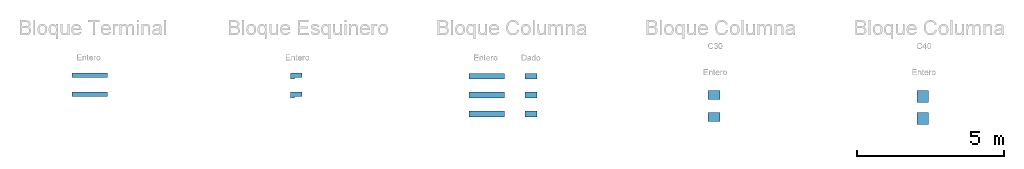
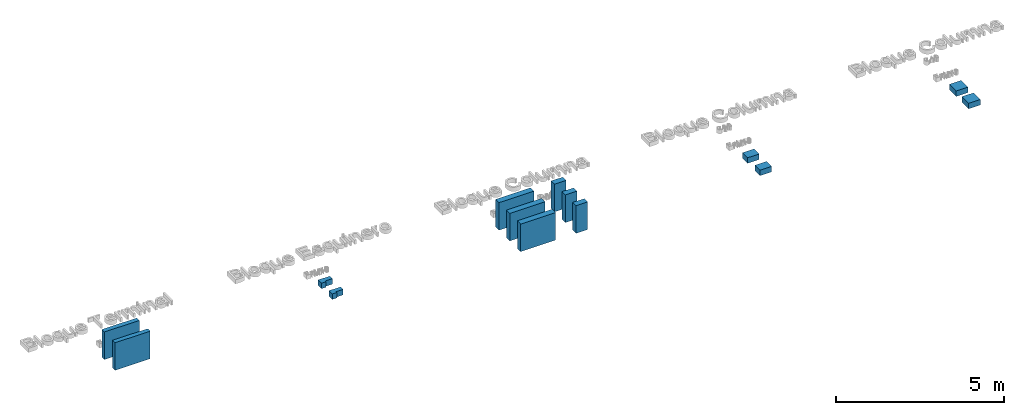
# One storey, part 1 of 8: 14 walls.
"""IFC2X3 building model written with IfcOpenShell, lengths in metres."""

import ifcopenshell
import ifcopenshell.guid

model = None  # the IFC model being written
_history = None  # IfcOwnerHistory: only IFC2X3 demands one
_inside = {}  # id of a spatial element -> (the spatial element, [elements in it])
_under = {}  # id of a project, library or spatial element -> (it, [spatial elements below it])
_declared = {}  # id of a project -> (the project, [libraries it declares])
_typed = {}  # id of a type object -> (the type object, [elements of that type])
_made_of = {}  # id of a material, layer set ... -> (it, [elements and type objects made of it])


def new_model(schema):
    """Start an empty IFC model of exactly this schema.

    Asked for "IFC4X3", IfcOpenShell would pick the latest addendum, in which some entities
    have other attributes; the version numbers below select the first issue.
    IFC2X3 requires an IfcOwnerHistory on every rooted entity: one is made here for all.
    """
    global model, _history
    if schema == "IFC4X3":
        model = ifcopenshell.file(schema_version=(4, 3, 0, 0))
    else:
        model = ifcopenshell.file(schema=schema)
    _inside.clear()
    _under.clear()
    _declared.clear()
    _typed.clear()
    _made_of.clear()
    _history = None
    if model.schema == "IFC2X3":
        org = make("IfcOrganization", Name="unknown")
        user = make(
            "IfcPersonAndOrganization",
            ThePerson=make("IfcPerson", FamilyName="unknown"),
            TheOrganization=org,
        )
        app = make(
            "IfcApplication",
            ApplicationDeveloper=org,
            Version="unknown",
            ApplicationFullName="unknown",
            ApplicationIdentifier="unknown",
        )
        _history = make(
            "IfcOwnerHistory",
            OwningUser=user,
            OwningApplication=app,
            ChangeAction="ADDED",
            CreationDate=0,
        )
    return model


def make(cls, **values):
    """One entity of the class cls with the attributes given. An attribute that is None is left unset."""
    return model.create_entity(
        cls, **{name: value for name, value in values.items() if value is not None}
    )


def entity(cls, *values):
    """Any entity or typed value of the class cls, its attributes in the order of the schema. None: left unset."""
    e = model.create_entity(cls)
    for i, value in enumerate(values):
        if value is not None:
            e[i] = value
    return e


def rooted(cls, **values):
    """An entity with a GlobalId (a new one), such as an element, a storey or a relation."""
    return make(cls, GlobalId=ifcopenshell.guid.new(), OwnerHistory=_history, **values)


def si_unit(unit_type, name, prefix=None):
    """IfcSIUnit, for example si_unit("LENGTHUNIT", "METRE", prefix="MILLI")."""
    return make("IfcSIUnit", UnitType=unit_type, Prefix=prefix, Name=name)


def converted_unit(unit_type, name, factor, base, dimensions=None, offset=None):
    """IfcConversionBasedUnit, such as the inch: factor (a typed value) times the base unit."""
    return make(
        "IfcConversionBasedUnit"
        if offset is None
        else "IfcConversionBasedUnitWithOffset",
        ConversionOffset=offset,
        Dimensions=None
        if dimensions is None
        else entity("IfcDimensionalExponents", *dimensions),
        UnitType=unit_type,
        Name=name,
        ConversionFactor=make(
            "IfcMeasureWithUnit", ValueComponent=factor, UnitComponent=base
        ),
    )


def derived_unit(unit_type, elements):
    """IfcDerivedUnit: a product of units, each with its exponent."""
    return make(
        "IfcDerivedUnit",
        Elements=[
            make("IfcDerivedUnitElement", Unit=unit, Exponent=power)
            for unit, power in elements
        ],
        UnitType=unit_type,
    )


def assignment(units):
    """IfcUnitAssignment: the units of a project."""
    return None if units is None else make("IfcUnitAssignment", Units=units)


def point(xyz):
    """IfcCartesianPoint."""
    return None if xyz is None else make("IfcCartesianPoint", Coordinates=xyz)


def direction(xyz):
    """IfcDirection."""
    return None if xyz is None else make("IfcDirection", DirectionRatios=xyz)


def frame(location, z_axis=None, x_axis=None):
    """IfcAxis2Placement3D, a coordinate frame: its origin and axes. An axis left out is left unset."""
    return make(
        "IfcAxis2Placement3D",
        Location=point(location),
        Axis=direction(z_axis),
        RefDirection=direction(x_axis),
    )


def frame_2d(location, x_axis=None):
    """IfcAxis2Placement2D, a coordinate frame in the plane: its origin and x axis."""
    return make(
        "IfcAxis2Placement2D", Location=point(location), RefDirection=direction(x_axis)
    )


def origin():
    """The frame at (0, 0, 0) with its axes left unset."""
    return frame((0.0, 0.0, 0.0))


def place(relative_to, where):
    """IfcLocalPlacement: puts the frame where relative to a parent placement (None: the world)."""
    return make(
        "IfcLocalPlacement", PlacementRelTo=relative_to, RelativePlacement=where
    )


def context(
    kind, dimensions, precision=None, world=None, true_north=None, identifier=None
):
    """IfcGeometricRepresentationContext, for example the 3D "Model" context."""
    return make(
        "IfcGeometricRepresentationContext",
        ContextIdentifier=identifier,
        ContextType=kind,
        CoordinateSpaceDimension=dimensions,
        Precision=precision,
        WorldCoordinateSystem=world,
        TrueNorth=true_north,
    )


def subcontext(parent, identifier, kind, view, scale=None):
    """IfcGeometricRepresentationSubContext, for example "Body" below "Model"."""
    return make(
        "IfcGeometricRepresentationSubContext",
        ContextIdentifier=identifier,
        ContextType=kind,
        ParentContext=parent,
        TargetScale=scale,
        TargetView=view,
    )


def project(units=None, contexts=None):
    """IfcProject with its units and contexts."""
    return rooted(
        "IfcProject",
        Name="project",
        RepresentationContexts=contexts,
        UnitsInContext=assignment(units),
    )


def spatial(cls, under=None, at=None, **own):
    """A site, building, storey or space (cls), placed at a placement, below another one or the project."""
    s = rooted(cls, ObjectPlacement=at, **own)
    if under is not None:
        _under.setdefault(under.id(), (under, []))[1].append(s)
    return s


def polyline(points):
    """IfcPolyline through the points."""
    return make("IfcPolyline", Points=[point(p) for p in points])


def profile(cls, at=None, kind="AREA", **sizes):
    """A parametric profile (cls). Its sizes go by their IFC names, for example OverallWidth=200.0."""
    return make(cls, ProfileType=kind, Position=at, **sizes)


def rectangle(**sizes):
    """IfcRectangleProfileDef."""
    return profile("IfcRectangleProfileDef", **sizes)


def outline(outer, holes=None, kind="AREA"):
    """IfcArbitraryClosedProfileDef: a profile drawn as a closed curve; with holes, ...WithVoids."""
    if holes is None:
        return make("IfcArbitraryClosedProfileDef", ProfileType=kind, OuterCurve=outer)
    return make(
        "IfcArbitraryProfileDefWithVoids",
        ProfileType=kind,
        OuterCurve=outer,
        InnerCurves=holes,
    )


def extrude(swept, where, along, depth):
    """IfcExtrudedAreaSolid: the profile swept, set in the frame where, extruded along a direction by depth."""
    return make(
        "IfcExtrudedAreaSolid",
        SweptArea=swept,
        Position=where,
        ExtrudedDirection=direction(along),
        Depth=depth,
    )


def shape(context_of_items, identifier, shape_type, items):
    """IfcShapeRepresentation: the items that make up one representation, for example the "Body"."""
    return make(
        "IfcShapeRepresentation",
        ContextOfItems=context_of_items,
        RepresentationIdentifier=identifier,
        RepresentationType=shape_type,
        Items=items,
    )


def material(Name=None, Category=None):
    """IfcMaterial."""
    return make("IfcMaterial", Name=Name, Category=Category)


def layer(
    of_material, thickness, ventilated=None, Name=None, Category=None, Priority=None
):
    """IfcMaterialLayer: one layer of a wall or slab, of a material (None: an air gap)."""
    return make(
        "IfcMaterialLayer",
        Material=of_material,
        LayerThickness=thickness,
        IsVentilated=ventilated,
        Name=Name,
        Category=Category,
        Priority=Priority,
    )


def layer_set(layers, Name=None):
    """IfcMaterialLayerSet."""
    return make("IfcMaterialLayerSet", MaterialLayers=layers, LayerSetName=Name)


def layer_usage(for_layer_set, set_direction, sense, offset, extent=None):
    """IfcMaterialLayerSetUsage: how a layer set lies in its element."""
    return make(
        "IfcMaterialLayerSetUsage",
        ForLayerSet=for_layer_set,
        LayerSetDirection=set_direction,
        DirectionSense=sense,
        OffsetFromReferenceLine=offset,
        ReferenceExtent=extent,
    )


def made_of(thing, what):
    """Note that an element or type object is made of a material, layer set ...; save() writes the relation."""
    if what is not None:
        _made_of.setdefault(what.id(), (what, []))[1].append(thing)
    return thing


def type_object(cls, material=None, **own):
    """A type object (cls), such as IfcWallType, which elements share."""
    return made_of(rooted(cls, **own), material)


def element(
    cls,
    number,
    at=None,
    inside=None,
    cuts=None,
    type_object=None,
    material=None,
    context=None,
    identifier="Body",
    shape_type=None,
    held_by="IfcProductDefinitionShape",
    body=None,
    shapes=None,
    **own,
):
    """One element of the class cls, such as IfcWall. Its Tag is "e" and its number.

    at: its placement. inside: the storey or other place that contains it. cuts: it is an
    opening in that element (IfcRelVoidsElement). A single representation is given by context,
    identifier, shape_type and body (its items); several are given by shapes. held_by: the class
    of the entity that holds the representations. save() writes the other relations.
    """
    e = rooted(cls, Tag="e%d" % number, ObjectPlacement=at, **own)
    if body is not None:
        shapes = [shape(context, identifier, shape_type, body)]
    if shapes is not None:
        e.Representation = make(held_by, Representations=shapes)
    if inside is not None:
        _inside.setdefault(inside.id(), (inside, []))[1].append(e)
    if cuts is not None:
        rooted(
            "IfcRelVoidsElement", RelatingBuildingElement=cuts, RelatedOpeningElement=e
        )
    if type_object is not None:
        _typed.setdefault(type_object.id(), (type_object, []))[1].append(e)
    return made_of(e, material)


def aggregate(whole, parts):
    """IfcRelAggregates: a whole, such as a stair, and the parts it consists of."""
    return rooted("IfcRelAggregates", RelatingObject=whole, RelatedObjects=parts)


def save(model, path):
    """Write the relations noted so far, then the file.

    IfcRelAggregates (storeys below a building ...), IfcRelContainedInSpatialStructure (elements
    in a storey), IfcRelDefinesByType, IfcRelAssociatesMaterial and IfcRelDeclares: one each for
    every whole, place, type object, material and project.
    """
    for whole, parts in _under.values():
        aggregate(whole, parts)
    for where, things in _inside.values():
        rooted(
            "IfcRelContainedInSpatialStructure",
            RelatedElements=things,
            RelatingStructure=where,
        )
    for kind, things in _typed.values():
        rooted("IfcRelDefinesByType", RelatedObjects=things, RelatingType=kind)
    for what, things in _made_of.values():
        rooted("IfcRelAssociatesMaterial", RelatedObjects=things, RelatingMaterial=what)
    for by, libraries in _declared.values():
        rooted("IfcRelDeclares", RelatingContext=by, RelatedDefinitions=libraries)
    model.write(path)


model = new_model("IFC2X3")

# Units and contexts
model_context = context("Model", 3, precision=1e-05, world=origin(), true_north=direction((6.12303176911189e-17, 1.0)))
body_context = subcontext(model_context, "Body", "Model", "MODEL_VIEW")
ifc_project = project(units=[si_unit("LENGTHUNIT", "METRE"), si_unit("AREAUNIT", "SQUARE_METRE"), si_unit("VOLUMEUNIT", "CUBIC_METRE"), converted_unit("PLANEANGLEUNIT", "DEGREE", entity("IfcRatioMeasure", 0.0174532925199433), si_unit("PLANEANGLEUNIT", "RADIAN"), dimensions=[0, 0, 0, 0, 0, 0, 0]), si_unit("MASSUNIT", "GRAM", prefix="KILO"), derived_unit("MASSDENSITYUNIT", [(si_unit("MASSUNIT", "GRAM", prefix="KILO"), 1), (si_unit("LENGTHUNIT", "METRE"), -3)]), derived_unit("MOMENTOFINERTIAUNIT", [(si_unit("LENGTHUNIT", "METRE"), 4)]), si_unit("TIMEUNIT", "SECOND"), si_unit("FREQUENCYUNIT", "HERTZ"), si_unit("THERMODYNAMICTEMPERATUREUNIT", "DEGREE_CELSIUS"), derived_unit("THERMALTRANSMITTANCEUNIT", [(si_unit("MASSUNIT", "GRAM", prefix="KILO"), 1), (si_unit("THERMODYNAMICTEMPERATUREUNIT", "KELVIN"), -1), (si_unit("TIMEUNIT", "SECOND"), -3)]), derived_unit("VOLUMETRICFLOWRATEUNIT", [(si_unit("LENGTHUNIT", "METRE"), 3), (si_unit("TIMEUNIT", "SECOND"), -1)]), si_unit("ELECTRICCURRENTUNIT", "AMPERE"), si_unit("ELECTRICVOLTAGEUNIT", "VOLT"), si_unit("POWERUNIT", "WATT"), si_unit("FORCEUNIT", "NEWTON", prefix="KILO"), si_unit("ILLUMINANCEUNIT", "LUX"), si_unit("LUMINOUSFLUXUNIT", "LUMEN"), si_unit("LUMINOUSINTENSITYUNIT", "CANDELA"), derived_unit("USERDEFINED", [(si_unit("MASSUNIT", "GRAM", prefix="KILO"), -1), (si_unit("LENGTHUNIT", "METRE"), -2), (si_unit("TIMEUNIT", "SECOND"), 3), (si_unit("LUMINOUSFLUXUNIT", "LUMEN"), 1)]), derived_unit("LINEARVELOCITYUNIT", [(si_unit("LENGTHUNIT", "METRE"), 1), (si_unit("TIMEUNIT", "SECOND"), -1)]), si_unit("PRESSUREUNIT", "PASCAL"), derived_unit("USERDEFINED", [(si_unit("LENGTHUNIT", "METRE"), -2), (si_unit("MASSUNIT", "GRAM", prefix="KILO"), 1), (si_unit("TIMEUNIT", "SECOND"), -2)]), derived_unit("LINEARFORCEUNIT", [(si_unit("MASSUNIT", "GRAM", prefix="KILO"), 1), (si_unit("LENGTHUNIT", "METRE"), 1), (si_unit("TIMEUNIT", "SECOND"), -2), (si_unit("LENGTHUNIT", "METRE"), -1)]), derived_unit("PLANARFORCEUNIT", [(si_unit("MASSUNIT", "GRAM", prefix="KILO"), 1), (si_unit("LENGTHUNIT", "METRE"), 1), (si_unit("TIMEUNIT", "SECOND"), -2), (si_unit("LENGTHUNIT", "METRE"), -2)])], contexts=[model_context])

# Site, building, storey
site_placement = place(None, origin())
site = spatial("IfcSite", under=ifc_project, at=site_placement, Name="Default", CompositionType="ELEMENT")
building_placement = place(site_placement, origin())
building = spatial("IfcBuilding", under=site, at=building_placement, CompositionType="ELEMENT")
storey_placement = place(building_placement, origin())
storey = spatial("IfcBuildingStorey", under=building, at=storey_placement, Name="Nivel 1", CompositionType="ELEMENT", Elevation=0.0)

# Walls
ifc_material_1 = material(Name="Bloque terminal - Natural")
ifc_layer_1 = layer(ifc_material_1, 0.15)
ifc_layer_set_1 = layer_set([ifc_layer_1], Name="Muro básico:Bloque terminal - Natural")
ifc_layer_usage_1 = layer_usage(ifc_layer_set_1, "AXIS2", "NEGATIVE", 0.075)
wall_type_1 = type_object("IfcWallType", Name="Muro básico:Bloque terminal - Natural", PredefinedType="STANDARD", material=ifc_layer_set_1)
wall_1_placement = place(storey_placement, frame((-14.9295062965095, -0.637762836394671, 0.0)))
element("IfcWallStandardCase", 1, at=wall_1_placement, inside=storey, type_object=wall_type_1, material=ifc_layer_usage_1, Name="Muro básico:Bloque terminal - Natural", ObjectType="Muro básico:Bloque terminal - Natural", context=body_context, shape_type="SweptSolid", body=[
    extrude(rectangle(XDim=1.2, YDim=0.15, at=frame_2d((0.6, -2.77555756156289e-17), x_axis=(-1.0, 0.0))), origin(), (0.0, 0.0, 1.0), 1.0),
])
ifc_material_2 = material(Name="Bloque terminal - Rosado")
ifc_layer_2 = layer(ifc_material_2, 0.15)
ifc_layer_set_2 = layer_set([ifc_layer_2], Name="Muro básico:Bloque terminal - Rosado")
ifc_layer_usage_2 = layer_usage(ifc_layer_set_2, "AXIS2", "NEGATIVE", 0.075)
wall_type_2 = type_object("IfcWallType", Name="Muro básico:Bloque terminal - Rosado", PredefinedType="STANDARD", material=ifc_layer_set_2)
wall_2_placement = place(storey_placement, frame((-14.9295062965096, -1.27964223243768, 0.0)))
element("IfcWallStandardCase", 2, at=wall_2_placement, inside=storey, type_object=wall_type_2, material=ifc_layer_usage_2, Name="Muro básico:Bloque terminal - Rosado", ObjectType="Muro básico:Bloque terminal - Rosado", context=body_context, shape_type="SweptSolid", body=[
    extrude(rectangle(XDim=1.2, YDim=0.15, at=frame_2d((0.6, 4.16333634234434e-17), x_axis=(-1.0, 0.0))), origin(), (0.0, 0.0, 1.0), 1.0),
])
ifc_material_3 = material(Name="Bloque Columna (Entero) - Natural")
ifc_layer_3 = layer(ifc_material_3, 0.2)
ifc_layer_set_3 = layer_set([ifc_layer_3], Name="Muro básico:Bloque Columna (Entero) - Natural")
ifc_layer_usage_3 = layer_usage(ifc_layer_set_3, "AXIS2", "NEGATIVE", 0.1)
wall_type_3 = type_object("IfcWallType", Name="Muro básico:Bloque Columna (Entero) - Natural", PredefinedType="STANDARD", material=ifc_layer_set_3)
wall_3_placement = place(storey_placement, frame((-1.42950629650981, -0.672636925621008, 0.0)))
element("IfcWallStandardCase", 3, at=wall_3_placement, inside=storey, type_object=wall_type_3, material=ifc_layer_usage_3, Name="Muro básico:Bloque Columna (Entero) - Natural", ObjectType="Muro básico:Bloque Columna (Entero) - Natural", context=body_context, shape_type="SweptSolid", body=[
    extrude(rectangle(XDim=1.2, YDim=0.2, at=frame_2d((0.6, -2.08166817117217e-17), x_axis=(-1.0, 0.0))), origin(), (0.0, 0.0, 1.0), 1.0),
])
ifc_material_4 = material(Name="Bloque Columna (Mitad) - Natural")
ifc_layer_4 = layer(ifc_material_4, 0.2)
ifc_layer_set_4 = layer_set([ifc_layer_4], Name="Muro básico:Bloque columna (Mitad) - Natural")
ifc_layer_usage_4 = layer_usage(ifc_layer_set_4, "AXIS2", "NEGATIVE", 0.1)
wall_type_4 = type_object("IfcWallType", Name="Muro básico:Bloque columna (Mitad) - Natural", PredefinedType="STANDARD", material=ifc_layer_set_4)
wall_4_placement = place(storey_placement, frame((0.470493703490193, -0.672636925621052, 0.0)))
element("IfcWallStandardCase", 4, at=wall_4_placement, inside=storey, type_object=wall_type_4, material=ifc_layer_usage_4, Name="Muro básico:Bloque columna (Mitad) - Natural", ObjectType="Muro básico:Bloque columna (Mitad) - Natural", context=body_context, shape_type="SweptSolid", body=[
    extrude(rectangle(XDim=0.4, YDim=0.2, at=frame_2d((0.2, -1.38777878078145e-17), x_axis=(-1.0, 0.0))), origin(), (0.0, 0.0, 1.0), 1.0),
])
ifc_material_5 = material(Name="Bloque esquinero - Natural")
wall_type_5 = type_object("IfcWallType", Name="Bloque esquinero:Bloque esquinero", PredefinedType="NOTDEFINED", material=ifc_material_5)
wall_5_placement = place(storey_placement, frame((-7.50950629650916, -0.762762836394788, 0.0)))
element("IfcWall", 5, at=wall_5_placement, inside=storey, type_object=wall_type_5, material=ifc_material_5, Name="Bloque esquinero:Bloque esquinero", ObjectType="Bloque esquinero:Bloque esquinero", context=body_context, shape_type="SweptSolid", body=[
    extrude(outline(polyline([(-0.216666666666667, -0.116666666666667), (0.183333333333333, -0.116666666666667), (0.183333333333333, 0.0833333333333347), (0.0333333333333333, 0.0833333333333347), (0.0333333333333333, 0.0333333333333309), (-0.216666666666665, 0.0333333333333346), (-0.216666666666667, -0.116666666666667)])), frame((0.183333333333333, 0.0833333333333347, 0.0), z_axis=(0.0, 0.0, 1.0), x_axis=(-1.0, 0.0, 0.0)), (0.0, 0.0, 1.0), 0.2),
])
ifc_material_6 = material(Name="Bloque esquinero - Rosado")
wall_type_6 = type_object("IfcWallType", Name="Bloque esquinero1:Bloque esquinero", PredefinedType="NOTDEFINED", material=ifc_material_6)
wall_6_placement = place(storey_placement, frame((-7.50950629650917, -1.40464223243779, 0.0)))
element("IfcWall", 6, at=wall_6_placement, inside=storey, type_object=wall_type_6, material=ifc_material_6, Name="Bloque esquinero1:Bloque esquinero", ObjectType="Bloque esquinero1:Bloque esquinero", context=body_context, shape_type="SweptSolid", body=[
    extrude(outline(polyline([(-0.216666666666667, -0.116666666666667), (0.183333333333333, -0.116666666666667), (0.183333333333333, 0.0833333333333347), (0.0333333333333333, 0.0833333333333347), (0.0333333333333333, 0.0333333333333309), (-0.216666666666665, 0.0333333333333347), (-0.216666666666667, -0.116666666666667)])), frame((0.183333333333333, 0.0833333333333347, 0.0), z_axis=(0.0, 0.0, 1.0), x_axis=(-1.0, 0.0, 0.0)), (0.0, 0.0, 1.0), 0.2),
])
ifc_material_7 = material(Name="Bloque Columna (Entero) - Rosado")
ifc_layer_5 = layer(ifc_material_7, 0.2)
ifc_layer_set_5 = layer_set([ifc_layer_5], Name="Muro básico:Bloque Columna (Entero) - Rosado")
ifc_layer_usage_5 = layer_usage(ifc_layer_set_5, "AXIS2", "NEGATIVE", 0.1)
wall_type_7 = type_object("IfcWallType", Name="Muro básico:Bloque Columna (Entero) - Rosado", PredefinedType="STANDARD", material=ifc_layer_set_5)
wall_7_placement = place(storey_placement, frame((-1.42950629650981, -1.31451632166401, 0.0)))
element("IfcWallStandardCase", 7, at=wall_7_placement, inside=storey, type_object=wall_type_7, material=ifc_layer_usage_5, Name="Muro básico:Bloque Columna (Entero) - Rosado", ObjectType="Muro básico:Bloque Columna (Entero) - Rosado", context=body_context, shape_type="SweptSolid", body=[
    extrude(rectangle(XDim=1.2, YDim=0.2, at=frame_2d((0.6, -2.08166817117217e-17), x_axis=(-1.0, 0.0))), origin(), (0.0, 0.0, 1.0), 1.0),
])
ifc_material_8 = material(Name="Bloque Columna (Mitad) - Rosado")
ifc_layer_6 = layer(ifc_material_8, 0.2)
ifc_layer_set_6 = layer_set([ifc_layer_6], Name="Muro básico:Bloque columna (Mitad) - Rosado")
ifc_layer_usage_6 = layer_usage(ifc_layer_set_6, "AXIS2", "NEGATIVE", 0.1)
wall_type_8 = type_object("IfcWallType", Name="Muro básico:Bloque columna (Mitad) - Rosado", PredefinedType="STANDARD", material=ifc_layer_set_6)
wall_8_placement = place(storey_placement, frame((0.470493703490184, -1.31451632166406, 0.0)))
element("IfcWallStandardCase", 8, at=wall_8_placement, inside=storey, type_object=wall_type_8, material=ifc_layer_usage_6, Name="Muro básico:Bloque columna (Mitad) - Rosado", ObjectType="Muro básico:Bloque columna (Mitad) - Rosado", context=body_context, shape_type="SweptSolid", body=[
    extrude(rectangle(XDim=0.4, YDim=0.2, at=frame_2d((0.2, -4.85722573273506e-17), x_axis=(-1.0, 0.0))), origin(), (0.0, 0.0, 1.0), 1.0),
])
ifc_material_9 = material(Name="Bloque Columna (Entero) - Rojo")
ifc_layer_7 = layer(ifc_material_9, 0.2)
ifc_layer_set_7 = layer_set([ifc_layer_7], Name="Muro básico:Bloque Columna (Entero) - Rojo")
ifc_layer_usage_7 = layer_usage(ifc_layer_set_7, "AXIS2", "NEGATIVE", 0.1)
wall_type_9 = type_object("IfcWallType", Name="Muro básico:Bloque Columna (Entero) - Rojo", PredefinedType="STANDARD", material=ifc_layer_set_7)
wall_9_placement = place(storey_placement, frame((-1.42950629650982, -1.95639571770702, 0.0)))
element("IfcWallStandardCase", 9, at=wall_9_placement, inside=storey, type_object=wall_type_9, material=ifc_layer_usage_7, Name="Muro básico:Bloque Columna (Entero) - Rojo", ObjectType="Muro básico:Bloque Columna (Entero) - Rojo", context=body_context, shape_type="SweptSolid", body=[
    extrude(rectangle(XDim=1.2, YDim=0.2, at=frame_2d((0.6, 4.16333634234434e-17), x_axis=(-1.0, 0.0))), origin(), (0.0, 0.0, 1.0), 1.0),
])
ifc_material_10 = material(Name="Bloque Columna (Mitad) - Rojo")
ifc_layer_8 = layer(ifc_material_10, 0.2)
ifc_layer_set_8 = layer_set([ifc_layer_8], Name="Muro básico:Bloque columna (Mitad) - Rojo")
ifc_layer_usage_8 = layer_usage(ifc_layer_set_8, "AXIS2", "NEGATIVE", 0.1)
wall_type_10 = type_object("IfcWallType", Name="Muro básico:Bloque columna (Mitad) - Rojo", PredefinedType="STANDARD", material=ifc_layer_set_8)
wall_10_placement = place(storey_placement, frame((0.470493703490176, -1.95639571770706, 0.0)))
element("IfcWallStandardCase", 10, at=wall_10_placement, inside=storey, type_object=wall_type_10, material=ifc_layer_usage_8, Name="Muro básico:Bloque columna (Mitad) - Rojo", ObjectType="Muro básico:Bloque columna (Mitad) - Rojo", context=body_context, shape_type="SweptSolid", body=[
    extrude(rectangle(XDim=0.4, YDim=0.2, at=frame_2d((0.2, 2.08166817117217e-17), x_axis=(-1.0, 0.0))), origin(), (0.0, 0.0, 1.0), 1.0),
])
ifc_material_11 = material(Name="Bloque Columna (30) - Natural")
wall_type_11 = type_object("IfcWallType", Name="Bloque esquinero2:Bloque esquinero", PredefinedType="NOTDEFINED", material=ifc_material_11)
wall_11_placement = place(storey_placement, frame((6.69049370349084, -1.46276283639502, 0.0)))
element("IfcWall", 11, at=wall_11_placement, inside=storey, type_object=wall_type_11, material=ifc_material_11, Name="Bloque esquinero2:Bloque esquinero", ObjectType="Bloque esquinero2:Bloque esquinero", context=body_context, shape_type="SweptSolid", body=[
    extrude(rectangle(XDim=0.4, YDim=0.300000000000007, at=frame_2d((-1.08246744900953e-15, -1.62370117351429e-15), x_axis=(1.0, 0.0))), frame((0.199999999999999, 0.150000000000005, 0.0), z_axis=(0.0, 0.0, 1.0), x_axis=(-1.0, 0.0, 0.0)), (0.0, 0.0, 1.0), 0.2),
])
ifc_material_12 = material(Name="Bloque Columna (30) - Rosado")
wall_type_12 = type_object("IfcWallType", Name="Bloque esquinero3:Bloque esquinero", PredefinedType="NOTDEFINED", material=ifc_material_12)
wall_12_placement = place(storey_placement, frame((6.69049370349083, -2.20464223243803, 0.0)))
element("IfcWall", 12, at=wall_12_placement, inside=storey, type_object=wall_type_12, material=ifc_material_12, Name="Bloque esquinero3:Bloque esquinero", ObjectType="Bloque esquinero3:Bloque esquinero", context=body_context, shape_type="SweptSolid", body=[
    extrude(rectangle(XDim=0.4, YDim=0.300000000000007, at=frame_2d((-2.16493489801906e-15, -1.62370117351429e-15), x_axis=(1.0, 0.0))), frame((0.199999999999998, 0.150000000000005, 0.0), z_axis=(0.0, 0.0, 1.0), x_axis=(-1.0, 0.0, 0.0)), (0.0, 0.0, 1.0), 0.2),
])
wall_type_13 = type_object("IfcWallType", Name="Bloque esquinero4:Bloque esquinero", PredefinedType="NOTDEFINED", material=ifc_material_5)
wall_13_placement = place(storey_placement, frame((13.7904937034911, -1.56276283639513, 0.0), z_axis=(0.0, 0.0, 1.0), x_axis=(0.0, 1.0, 0.0)))
element("IfcWall", 13, at=wall_13_placement, inside=storey, type_object=wall_type_13, material=ifc_material_5, Name="Bloque esquinero4:Bloque esquinero", ObjectType="Bloque esquinero4:Bloque esquinero", context=body_context, shape_type="SweptSolid", body=[
    extrude(rectangle(XDim=0.4, YDim=0.400000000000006, at=frame_2d((0.0, -1.62370117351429e-15), x_axis=(1.0, 0.0))), frame((0.200000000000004, -0.2, 0.0), z_axis=(0.0, 0.0, 1.0), x_axis=(0.0, 1.0, 0.0)), (0.0, 0.0, 1.0), 0.2),
])
ifc_material_13 = material(Name="Bloque Columna (40) - Rosado")
wall_type_14 = type_object("IfcWallType", Name="Bloque esquinero5:Bloque esquinero", PredefinedType="NOTDEFINED", material=ifc_material_13)
wall_14_placement = place(storey_placement, frame((13.7904937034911, -2.30464223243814, 0.0), z_axis=(0.0, 0.0, 1.0), x_axis=(0.0, 1.0, 0.0)))
element("IfcWall", 14, at=wall_14_placement, inside=storey, type_object=wall_type_14, material=ifc_material_13, Name="Bloque esquinero5:Bloque esquinero", ObjectType="Bloque esquinero5:Bloque esquinero", context=body_context, shape_type="SweptSolid", body=[
    extrude(rectangle(XDim=0.4, YDim=0.400000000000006, at=frame_2d((0.0, -1.62370117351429e-15), x_axis=(1.0, 0.0))), frame((0.200000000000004, -0.2, 0.0), z_axis=(0.0, 0.0, 1.0), x_axis=(0.0, 1.0, 0.0)), (0.0, 0.0, 1.0), 0.2),
])

save(model, "model.ifc")
